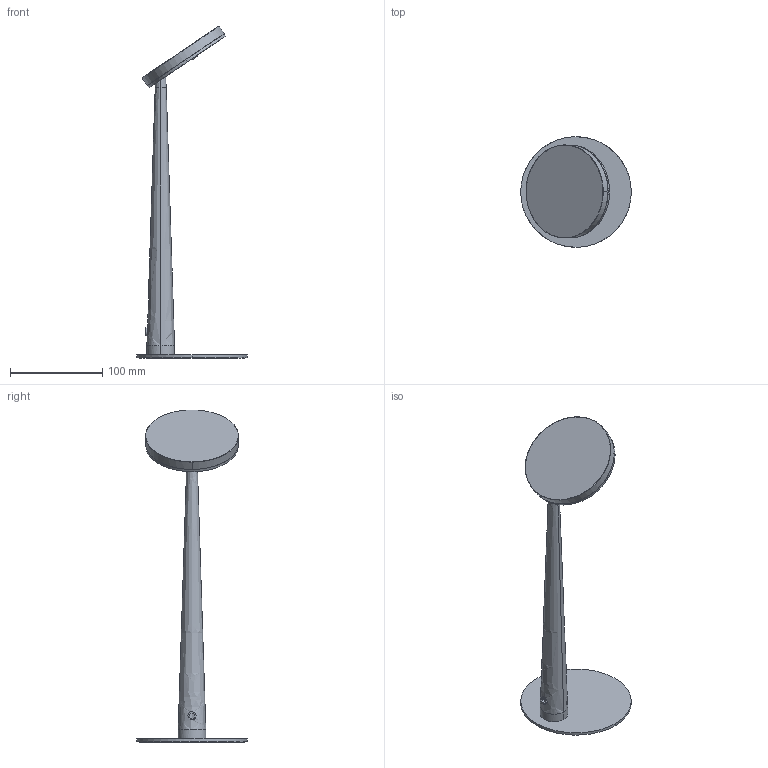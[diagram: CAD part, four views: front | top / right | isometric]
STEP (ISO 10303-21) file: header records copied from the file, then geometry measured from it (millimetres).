
FILE_DESCRIPTION(/* description */ (''),/* implementation_level */ '2;1');
FILE_NAME(/* name */ 'C052__~1',/* time_stamp */ '2024-07-04T14:37:24+02:00',/* author */ (''),/* organization */ (''),/* preprocessor_version */ 'ST-DEVELOPER v16.5',/* originating_system */ '',/* authorisation */ '');
FILE_SCHEMA (('AUTOMOTIVE_DESIGN'));
Length unit declared in the file: millimetre
Products named in the file (1): Document
Bounding box: 120 x 120 x 360.43 mm (x, y, z)
Volume: 118530.6 mm3; surface area: 123788.8 mm2
Topology: 9 solids, 10 shells, 218 faces, 494 edges, 295 vertices
Faces by surface type: bspline 169, plane 49
Entity records: 9840 total; most frequent: CARTESIAN_POINT 6987, ORIENTED_EDGE 958, EDGE_CURVE 481, VERTEX_POINT 295, EDGE_LOOP 248, ADVANCED_FACE 218, FACE_OUTER_BOUND 218, B_SPLINE_CURVE_WITH_KNOTS 198
